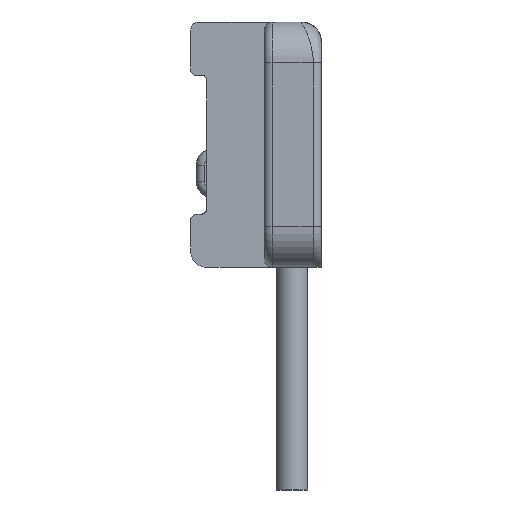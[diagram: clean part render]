
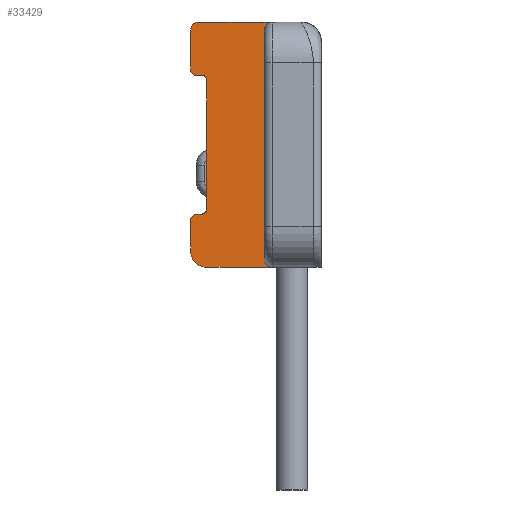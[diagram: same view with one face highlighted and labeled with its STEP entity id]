
A CAD part, left-side view. The second image highlights one B-rep face of the part: STEP entity #33429.
In plain terms, the highlighted planar face has unit normal (-1, 0, 0).
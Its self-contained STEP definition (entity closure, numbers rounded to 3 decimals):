
#5590 = DIRECTION ( 'NONE',  ( 0., -1., 0. ) ) ;
#5591 = VECTOR ( 'NONE', #5590, 1000. ) ;
#5593 = CARTESIAN_POINT ( 'NONE',  ( -8.3, 1.6, 1.5 ) ) ;
#5594 = LINE ( 'NONE', #5593, #5591 ) ;
#5604 = CARTESIAN_POINT ( 'NONE',  ( -8.3, 0.6, 1.5 ) ) ;
#5653 = CARTESIAN_POINT ( 'NONE',  ( -8.3, 1.5, 1.5 ) ) ;
#9355 = CARTESIAN_POINT ( 'NONE',  ( -8.3, 1.6, -1.3 ) ) ;
#9356 = CARTESIAN_POINT ( 'NONE',  ( -8.3, 1.4, -1.5 ) ) ;
#9407 = CARTESIAN_POINT ( 'NONE',  ( -8.3, 0.7, -1.5 ) ) ;
#9440 = DIRECTION ( 'NONE',  ( 0., -1., 0. ) ) ;
#9443 = DIRECTION ( 'NONE',  ( 0., 0., 1. ) ) ;
#9444 = DIRECTION ( 'NONE',  ( 1., 0., 0. ) ) ;
#9445 = CARTESIAN_POINT ( 'NONE',  ( -8.3, 1.4, -1.3 ) ) ;
#9446 = AXIS2_PLACEMENT_3D ( 'NONE', #9445, #9444, #9443 ) ;
#9449 = VECTOR ( 'NONE', #9440, 1000. ) ;
#9450 = CARTESIAN_POINT ( 'NONE',  ( -8.3, 1.6, -1.5 ) ) ;
#9452 = DIRECTION ( 'NONE',  ( 0., 0., 1. ) ) ;
#9453 = VECTOR ( 'NONE', #9452, 1000. ) ;
#9455 = CARTESIAN_POINT ( 'NONE',  ( -8.3, 1.6, -1.5 ) ) ;
#9456 = LINE ( 'NONE', #9455, #9453 ) ;
#9457 = CIRCLE ( 'NONE', #9446, 0.2 ) ;
#9463 = LINE ( 'NONE', #9450, #9449 ) ;
#9470 = DIRECTION ( 'NONE',  ( 0., 0., 1. ) ) ;
#9471 = DIRECTION ( 'NONE',  ( 1., 0., 0. ) ) ;
#9476 = DIRECTION ( 'NONE',  ( 0., 0., 1. ) ) ;
#9477 = VECTOR ( 'NONE', #9476, 1000. ) ;
#9478 = CARTESIAN_POINT ( 'NONE',  ( -8.3, 1.6, -1.5 ) ) ;
#9480 = FACE_OUTER_BOUND ( 'NONE', #33409, .T. ) ;
#9485 = AXIS2_PLACEMENT_3D ( 'NONE', #9478, #9471, #9470 ) ;
#9488 = CARTESIAN_POINT ( 'NONE',  ( -8.3, 1.6, -1.5 ) ) ;
#9489 = LINE ( 'NONE', #9488, #9477 ) ;
#9495 = DIRECTION ( 'NONE',  ( 0., 0., 1. ) ) ;
#9496 = VECTOR ( 'NONE', #9495, 1000. ) ;
#9497 = LINE ( 'NONE', #9407, #9496 ) ;
#9506 = PLANE ( 'NONE',  #9485 ) ;
#16282 = DIRECTION ( 'NONE',  ( 0., 0., -1. ) ) ;
#16337 = DIRECTION ( 'NONE',  ( 0., 0., 1. ) ) ;
#16338 = DIRECTION ( 'NONE',  ( -1., 0., 0. ) ) ;
#16339 = CARTESIAN_POINT ( 'NONE',  ( -8.3, 0.6, 1.4 ) ) ;
#16558 = CIRCLE ( 'NONE', #16631, 0.1 ) ;
#16583 = CARTESIAN_POINT ( 'NONE',  ( -8.3, 0.7, -1.4 ) ) ;
#16631 = AXIS2_PLACEMENT_3D ( 'NONE', #16339, #16338, #16337 ) ;
#17428 = DIRECTION ( 'NONE',  ( 0., 0., 1. ) ) ;
#17430 = DIRECTION ( 'NONE',  ( -1., 0., 0. ) ) ;
#17432 = AXIS2_PLACEMENT_3D ( 'NONE', #17442, #17430, #17428 ) ;
#17442 = CARTESIAN_POINT ( 'NONE',  ( -8.3, 0.6, -1.4 ) ) ;
#17443 = CIRCLE ( 'NONE', #17432, 0.1 ) ;
#17454 = CARTESIAN_POINT ( 'NONE',  ( -8.3, 0.6, -1.5 ) ) ;
#17506 = CARTESIAN_POINT ( 'NONE',  ( -8.3, 0.7, 1.4 ) ) ;
#18282 = CARTESIAN_POINT ( 'NONE',  ( -8.3, 1.55, -0.85 ) ) ;
#18307 = AXIS2_PLACEMENT_3D ( 'NONE', #18320, #18318, #16282 ) ;
#18309 = CIRCLE ( 'NONE', #18307, 0.07 ) ;
#18318 = DIRECTION ( 'NONE',  ( 1., 0., 0. ) ) ;
#18320 = CARTESIAN_POINT ( 'NONE',  ( -8.3, 1.47, -0.78 ) ) ;
#18428 = LINE ( 'NONE', #18510, #18509 ) ;
#18444 = CARTESIAN_POINT ( 'NONE',  ( -8.3, 1.6, -0.9 ) ) ;
#18455 = DIRECTION ( 'NONE',  ( 0., 0., 1. ) ) ;
#18457 = DIRECTION ( 'NONE',  ( 1., 0., 0. ) ) ;
#18458 = CARTESIAN_POINT ( 'NONE',  ( -8.3, 1.5, 1.4 ) ) ;
#18459 = AXIS2_PLACEMENT_3D ( 'NONE', #18458, #18457, #18455 ) ;
#18492 = CIRCLE ( 'NONE', #18459, 0.1 ) ;
#18497 = CARTESIAN_POINT ( 'NONE',  ( -8.3, 1.6, 1.4 ) ) ;
#18508 = DIRECTION ( 'NONE',  ( 0., -0.707, 0.707 ) ) ;
#18509 = VECTOR ( 'NONE', #18508, 1000. ) ;
#18510 = CARTESIAN_POINT ( 'NONE',  ( -8.3, 1.6, -0.9 ) ) ;
#19031 = VECTOR ( 'NONE', #19053, 1000. ) ;
#19033 = LINE ( 'NONE', #19063, #19031 ) ;
#19053 = DIRECTION ( 'NONE',  ( 0., 0., -1. ) ) ;
#19055 = DIRECTION ( 'NONE',  ( 0., 0.707, 0.707 ) ) ;
#19057 = VECTOR ( 'NONE', #19055, 1000. ) ;
#19059 = CARTESIAN_POINT ( 'NONE',  ( -8.3, 1.55, 0.85 ) ) ;
#19063 = CARTESIAN_POINT ( 'NONE',  ( -8.3, 1.4, 0.78 ) ) ;
#19065 = CARTESIAN_POINT ( 'NONE',  ( -8.3, 1.47, -0.85 ) ) ;
#19075 = CARTESIAN_POINT ( 'NONE',  ( -8.3, 1.6, 0.9 ) ) ;
#19079 = CARTESIAN_POINT ( 'NONE',  ( -8.3, 1.55, 0.85 ) ) ;
#19083 = LINE ( 'NONE', #19059, #19057 ) ;
#19566 = DIRECTION ( 'NONE',  ( 0., 1., 0. ) ) ;
#19567 = VECTOR ( 'NONE', #19566, 1000. ) ;
#19668 = CARTESIAN_POINT ( 'NONE',  ( -8.3, 1.4, -0.78 ) ) ;
#19674 = LINE ( 'NONE', #19703, #19567 ) ;
#19703 = CARTESIAN_POINT ( 'NONE',  ( -8.3, 1.6, -0.85 ) ) ;
#19758 = DIRECTION ( 'NONE',  ( 0., -1., 0. ) ) ;
#19759 = VECTOR ( 'NONE', #19758, 1000. ) ;
#19761 = CARTESIAN_POINT ( 'NONE',  ( -8.3, 1.6, 0.85 ) ) ;
#19763 = LINE ( 'NONE', #19761, #19759 ) ;
#20010 = CARTESIAN_POINT ( 'NONE',  ( -8.3, 1.4, 0.78 ) ) ;
#20043 = DIRECTION ( 'NONE',  ( 0., 0., 1. ) ) ;
#20045 = DIRECTION ( 'NONE',  ( 1., 0., 0. ) ) ;
#20048 = CARTESIAN_POINT ( 'NONE',  ( -8.3, 1.47, 0.78 ) ) ;
#20063 = CARTESIAN_POINT ( 'NONE',  ( -8.3, 1.47, 0.85 ) ) ;
#20068 = AXIS2_PLACEMENT_3D ( 'NONE', #20048, #20045, #20043 ) ;
#20069 = CIRCLE ( 'NONE', #20068, 0.07 ) ;
#28251 = VERTEX_POINT ( 'NONE', #5653 ) ;
#28258 = EDGE_CURVE ( 'NONE', #28251, #28260, #5594, .T. ) ;
#28260 = VERTEX_POINT ( 'NONE', #5604 ) ;
#31112 = VERTEX_POINT ( 'NONE', #16583 ) ;
#31137 = EDGE_CURVE ( 'NONE', #28260, #31235, #16558, .T. ) ;
#31219 = EDGE_CURVE ( 'NONE', #31112, #31221, #17443, .T. ) ;
#31221 = VERTEX_POINT ( 'NONE', #17454 ) ;
#31235 = VERTEX_POINT ( 'NONE', #17506 ) ;
#31324 = VERTEX_POINT ( 'NONE', #18282 ) ;
#31325 = EDGE_CURVE ( 'NONE', #31326, #31324, #18428, .T. ) ;
#31326 = VERTEX_POINT ( 'NONE', #18444 ) ;
#31331 = VERTEX_POINT ( 'NONE', #18497 ) ;
#31334 = EDGE_CURVE ( 'NONE', #31331, #28251, #18492, .T. ) ;
#31574 = VERTEX_POINT ( 'NONE', #19075 ) ;
#31579 = EDGE_CURVE ( 'NONE', #31581, #31574, #19083, .T. ) ;
#31581 = VERTEX_POINT ( 'NONE', #19079 ) ;
#31589 = EDGE_CURVE ( 'NONE', #31762, #31644, #19033, .T. ) ;
#31595 = VERTEX_POINT ( 'NONE', #19065 ) ;
#31598 = EDGE_CURVE ( 'NONE', #31644, #31595, #18309, .T. ) ;
#31599 = EDGE_CURVE ( 'NONE', #31595, #31324, #19674, .T. ) ;
#31644 = VERTEX_POINT ( 'NONE', #19668 ) ;
#31762 = VERTEX_POINT ( 'NONE', #20010 ) ;
#31764 = VERTEX_POINT ( 'NONE', #20063 ) ;
#31768 = EDGE_CURVE ( 'NONE', #31764, #31762, #20069, .T. ) ;
#31791 = EDGE_CURVE ( 'NONE', #31581, #31764, #19763, .T. ) ;
#33409 = EDGE_LOOP ( 'NONE', ( #33426, #33471, #33470, #33430, #33483, #33485, #33487, #33472, #33489, #33425, #33492, #33484, #33494, #33477, #33493, #33479 ) ) ;
#33417 = EDGE_CURVE ( 'NONE', #31112, #31235, #9497, .T. ) ;
#33425 = ORIENTED_EDGE ( 'NONE', *, *, #33490, .F. ) ;
#33426 = ORIENTED_EDGE ( 'NONE', *, *, #33427, .F. ) ;
#33427 = EDGE_CURVE ( 'NONE', #31574, #31331, #9489, .T. ) ;
#33429 = ADVANCED_FACE ( 'NONE', ( #9480 ), #9506, .F. ) ;
#33430 = ORIENTED_EDGE ( 'NONE', *, *, #31768, .T. ) ;
#33470 = ORIENTED_EDGE ( 'NONE', *, *, #31791, .T. ) ;
#33471 = ORIENTED_EDGE ( 'NONE', *, *, #31579, .F. ) ;
#33472 = ORIENTED_EDGE ( 'NONE', *, *, #31325, .F. ) ;
#33473 = VERTEX_POINT ( 'NONE', #9355 ) ;
#33477 = ORIENTED_EDGE ( 'NONE', *, *, #31137, .F. ) ;
#33479 = ORIENTED_EDGE ( 'NONE', *, *, #31334, .F. ) ;
#33483 = ORIENTED_EDGE ( 'NONE', *, *, #31589, .T. ) ;
#33484 = ORIENTED_EDGE ( 'NONE', *, *, #31219, .F. ) ;
#33485 = ORIENTED_EDGE ( 'NONE', *, *, #31598, .T. ) ;
#33486 = VERTEX_POINT ( 'NONE', #9356 ) ;
#33487 = ORIENTED_EDGE ( 'NONE', *, *, #31599, .T. ) ;
#33488 = EDGE_CURVE ( 'NONE', #33473, #31326, #9456, .T. ) ;
#33489 = ORIENTED_EDGE ( 'NONE', *, *, #33488, .F. ) ;
#33490 = EDGE_CURVE ( 'NONE', #33486, #33473, #9457, .T. ) ;
#33491 = EDGE_CURVE ( 'NONE', #33486, #31221, #9463, .T. ) ;
#33492 = ORIENTED_EDGE ( 'NONE', *, *, #33491, .T. ) ;
#33493 = ORIENTED_EDGE ( 'NONE', *, *, #28258, .F. ) ;
#33494 = ORIENTED_EDGE ( 'NONE', *, *, #33417, .T. ) ;
